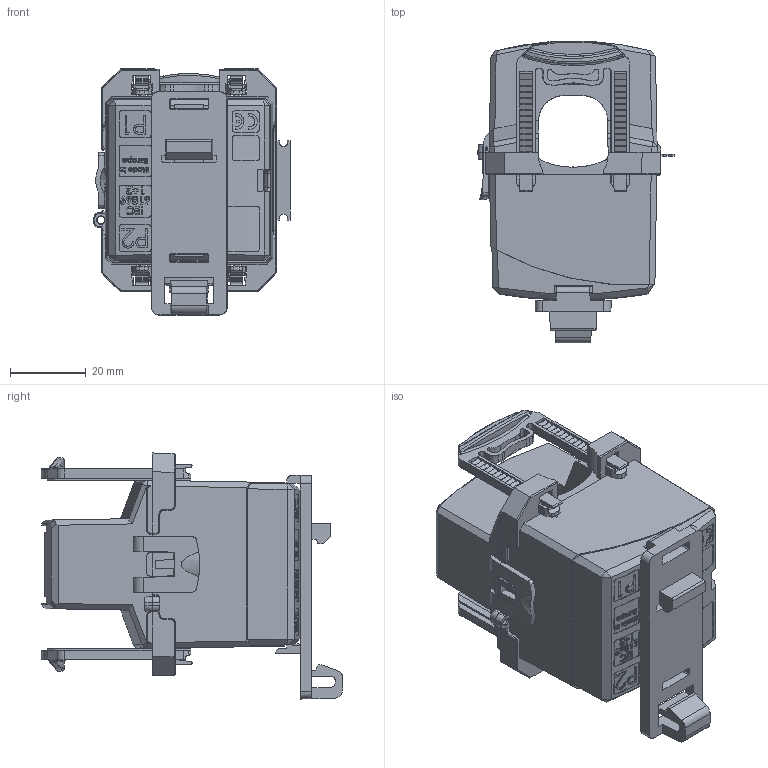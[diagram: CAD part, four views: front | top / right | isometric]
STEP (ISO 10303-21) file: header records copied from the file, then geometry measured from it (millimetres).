
FILE_DESCRIPTION (( 'STEP AP214' ), '1' );
FILE_NAME ('KBR18L_kpl_01.STEP', '2018-08-01T09:02:23', ( '' ), ( '' ), 'SwSTEP 2.0', 'SolidWorks 2016', '' );
FILE_SCHEMA (( 'AUTOMOTIVE_DESIGN' ));
Length unit declared in the file: millimetre
Products named in the file (12): KBR18L_kpl_01; KBR18L-Gehäuse-OT_02; KBR18L_Gehäuse-UT; KBR18L_Kern_3.5522; KBR18L_Kernabdeckung_OT_2.8357_01; KBR18L_Kernabdeckung_UT_2.8356; KBR18L_Wicklung; KBR18L_Kern_kpl; KBR18L_Innendeckel_2.8358; KBR18S-KBR18L_Fixierspange_2.8349; KBR18L-KBR28_Schnappbefestigung_fuer_Hutschiene_2.8360_01; Standardtypenschild_22x26
Assembly tree (12 placements, depth 3):
  KBR18L_kpl_01
    KBR18L-Gehäuse-OT_02
    KBR18L_Gehäuse-UT
    KBR18L_Kern_kpl
      KBR18L_Kern_3.5522
      KBR18L_Kernabdeckung_OT_2.8357_01
      KBR18L_Kernabdeckung_UT_2.8356
      KBR18L_Wicklung
    KBR18L_Innendeckel_2.8358
    KBR18S-KBR18L_Fixierspange_2.8349  x2
    KBR18L-KBR28_Schnappbefestigung_fuer_Hutschiene_2.8360_01
    Standardtypenschild_22x26
Bounding box: 52 x 79.82 x 65.15 mm (x, y, z)
Volume: 79319.3 mm3; surface area: 67899.1 mm2
Topology: 12 solids, 12 shells, 2162 faces, 6010 edges, 3932 vertices
Faces by surface type: plane 1467, cylinder 339, bspline 257, cone 72, torus 14, sphere 13
Full cylindrical faces by diameter (mm): 3 x4
Entity records: 69273 total; most frequent: CARTESIAN_POINT 23747, ORIENTED_EDGE 10460, DIRECTION 7721, EDGE_CURVE 5230, LINE 3641, VECTOR 3641, VERTEX_POINT 3434, AXIS2_PLACEMENT_3D 2040
